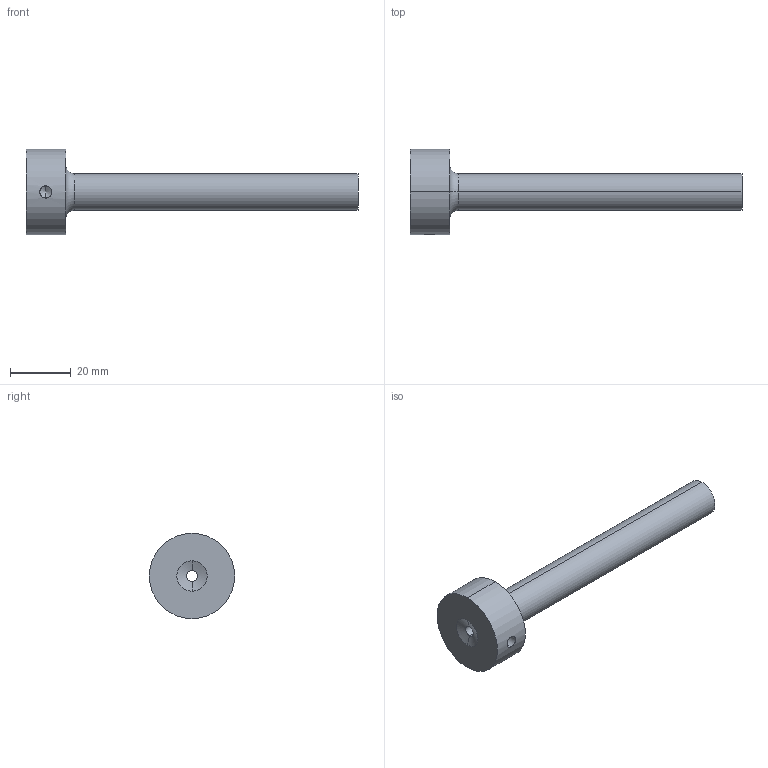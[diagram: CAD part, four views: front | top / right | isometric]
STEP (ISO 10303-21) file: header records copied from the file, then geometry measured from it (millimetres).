
FILE_DESCRIPTION (( 'STEP AP214' ), '1' );
FILE_NAME ('BR511 12X96X3,5X40.STEP', '2019-12-11T08:25:53', ( 'August' ), ( '' ), 'SwSTEP 2.0', 'SolidWorks 2018', '' );
FILE_SCHEMA (( 'AUTOMOTIVE_DESIGN' ));
Length unit declared in the file: millimetre
Products named in the file (1): BR511 12X96X3,5X40
Bounding box: 109 x 28 x 28 mm (x, y, z)
Volume: 16228 mm3; surface area: 7816.6 mm2
Topology: 1 solids, 1 shells, 17 faces, 36 edges, 21 vertices
Faces by surface type: cylinder 6, cone 4, torus 4, plane 3
Entity records: 538 total; most frequent: CARTESIAN_POINT 127, DIRECTION 90, ORIENTED_EDGE 68, AXIS2_PLACEMENT_3D 40, EDGE_CURVE 34, CIRCLE 22, VERTEX_POINT 21, EDGE_LOOP 21
